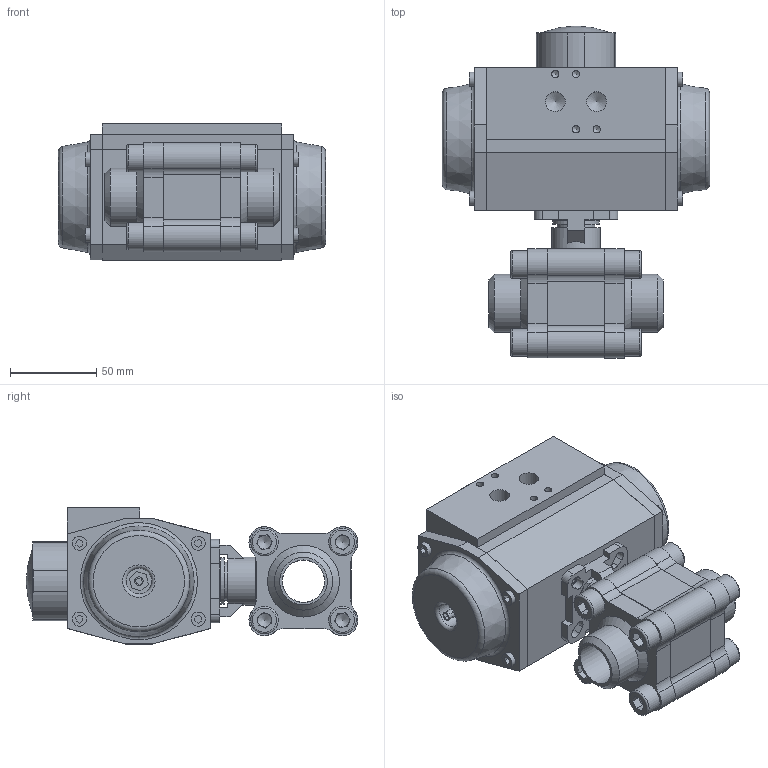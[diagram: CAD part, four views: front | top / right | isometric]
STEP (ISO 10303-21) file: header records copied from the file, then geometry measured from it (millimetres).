
FILE_DESCRIPTION (( 'STEP AP214' ), '1' );
FILE_NAME ('S33D BW DN25 + AP2.STEP', '2025-08-13T08:38:34', ( '' ), ( '' ), 'SwSTEP 2.0', 'SolidWorks 2021', '' );
FILE_SCHEMA (( 'AUTOMOTIVE_DESIGN' ));
Length unit declared in the file: millimetre
Products named in the file (6): S33D KK DN25 PN100; S33D Flens Buttweld DN25; S33D BW DN25 + AP2; S33D DN25 Buttweld; socket head cap screw_din_DIN 912 M10 x 25 --- 25N; AP2_Default<As Machined>
Assembly tree (13 placements, depth 3):
  S33D BW DN25 + AP2
    S33D DN25 Buttweld
      S33D KK DN25 PN100
      S33D Flens Buttweld DN25  x2
      socket head cap screw_din_DIN 912 M10 x 25 --- 25N  x8
    AP2_Default<As Machined>
Bounding box: 155 x 192.61 x 79 mm (x, y, z)
Volume: 1065913.2 mm3; surface area: 143843.9 mm2
Topology: 19 solids, 19 shells, 533 faces, 1286 edges, 829 vertices
Faces by surface type: plane 356, cylinder 118, cone 36, torus 22, sphere 1
Full cylindrical faces by diameter (mm): 4.2 x12, 5 x2, 8.2 x8, 8.5 x4, 10 x8, 10.5 x8, 11.445 x2, 14.8 x2, 16 x8, 22 x1, 24.5 x1, 24.6 x2, 25 x1, 27 x1, 28 x1, 30 x1, 32.5 x1, 33.65 x2, 45.8 x1
Entity records: 11147 total; most frequent: CARTESIAN_POINT 1767, DIRECTION 1745, ORIENTED_EDGE 1596, EDGE_CURVE 798, VECTOR 595, LINE 595, AXIS2_PLACEMENT_3D 575, VERTEX_POINT 565
